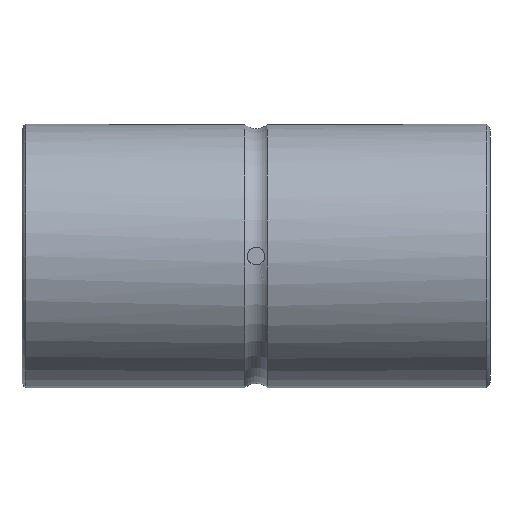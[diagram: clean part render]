
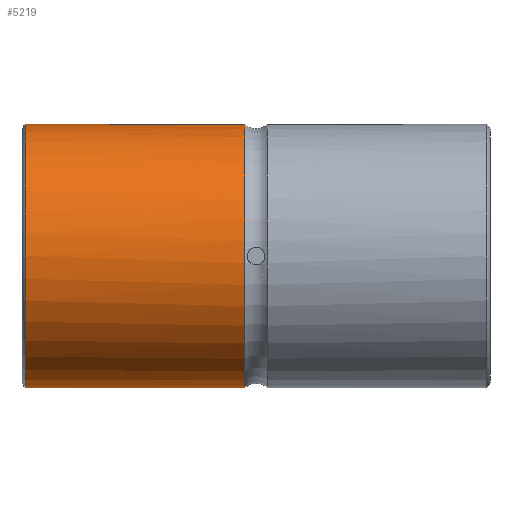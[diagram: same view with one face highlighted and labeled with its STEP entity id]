
A CAD part, front view. The second image highlights one B-rep face of the part: STEP entity #5219.
In plain terms, the highlighted cylindrical face has radius 22.5 mm (diameter 45 mm), a full revolution.
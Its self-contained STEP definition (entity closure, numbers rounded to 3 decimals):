
#23=B_SPLINE_CURVE_WITH_KNOTS('',3,(#8391,#8392,#8393,#8394,#8395,#8396,
#8397),.UNSPECIFIED.,.F.,.F.,(4,1,1,1,4),(0.,0.003,0.005,
0.008,0.011),.UNSPECIFIED.);
#472=LINE('',#8400,#1010);
#473=LINE('',#8401,#1011);
#1010=VECTOR('',#6743,1000.);
#1011=VECTOR('',#6744,1000.);
#1918=ORIENTED_EDGE('',*,*,#3255,.T.);
#1919=ORIENTED_EDGE('',*,*,#3256,.T.);
#1920=ORIENTED_EDGE('',*,*,#3248,.F.);
#1921=ORIENTED_EDGE('',*,*,#3257,.T.);
#1922=ORIENTED_EDGE('',*,*,#3254,.T.);
#3248=EDGE_CURVE('',#3914,#3915,#4291,.T.);
#3254=EDGE_CURVE('',#3920,#3920,#4293,.T.);
#3255=EDGE_CURVE('',#3921,#3922,#23,.T.);
#3256=EDGE_CURVE('',#3922,#3915,#472,.T.);
#3257=EDGE_CURVE('',#3914,#3921,#473,.F.);
#3914=VERTEX_POINT('',#8345);
#3915=VERTEX_POINT('',#8346);
#3920=VERTEX_POINT('',#8389);
#3921=VERTEX_POINT('',#8398);
#3922=VERTEX_POINT('',#8399);
#4291=CIRCLE('',#5696,22.5);
#4293=CIRCLE('',#5699,22.5);
#4473=EDGE_LOOP('',(#1918,#1919,#1920,#1921));
#4474=EDGE_LOOP('',(#1922));
#4801=FACE_BOUND('',#4473,.T.);
#4802=FACE_BOUND('',#4474,.T.);
#5070=CYLINDRICAL_SURFACE('',#5700,22.5);
#5219=ADVANCED_FACE('',(#4801,#4802),#5070,.T.);
#5696=AXIS2_PLACEMENT_3D('',#8344,#6733,#6734);
#5699=AXIS2_PLACEMENT_3D('',#8388,#6739,#6740);
#5700=AXIS2_PLACEMENT_3D('',#8390,#6741,#6742);
#6733=DIRECTION('',(1.,0.,0.));
#6734=DIRECTION('',(0.,0.,-1.));
#6739=DIRECTION('',(1.,0.,0.));
#6740=DIRECTION('',(0.,0.,-1.));
#6741=DIRECTION('',(1.,0.,0.));
#6742=DIRECTION('',(0.,0.,-1.));
#6743=DIRECTION('',(1.,0.,0.));
#6744=DIRECTION('',(1.,0.,0.));
#8344=CARTESIAN_POINT('',(-1.925,0.,0.));
#8345=CARTESIAN_POINT('',(-1.925,22.226,3.5));
#8346=CARTESIAN_POINT('',(-1.925,22.226,-3.5));
#8388=CARTESIAN_POINT('',(-39.38,0.,0.));
#8389=CARTESIAN_POINT('',(-39.38,0.,-22.5));
#8390=CARTESIAN_POINT('',(40.,0.,0.));
#8391=CARTESIAN_POINT('',(-17.,22.226,3.5));
#8392=CARTESIAN_POINT('',(-17.926,22.226,3.5));
#8393=CARTESIAN_POINT('',(-19.737,22.364,2.741));
#8394=CARTESIAN_POINT('',(-20.881,22.568,0.004));
#8395=CARTESIAN_POINT('',(-19.739,22.364,-2.741));
#8396=CARTESIAN_POINT('',(-17.926,22.226,-3.5));
#8397=CARTESIAN_POINT('',(-17.,22.226,-3.5));
#8398=CARTESIAN_POINT('',(-17.,22.226,3.5));
#8399=CARTESIAN_POINT('',(-17.,22.226,-3.5));
#8400=CARTESIAN_POINT('',(40.,22.226,-3.5));
#8401=CARTESIAN_POINT('',(40.,22.226,3.5));
